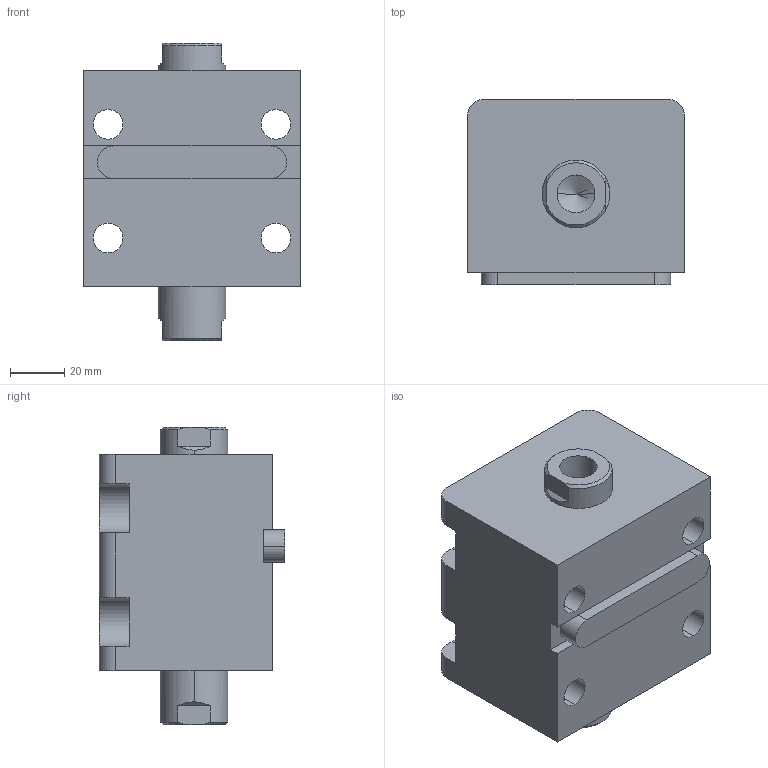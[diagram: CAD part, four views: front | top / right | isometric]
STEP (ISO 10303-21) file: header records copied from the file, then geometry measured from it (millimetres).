
FILE_DESCRIPTION (( 'STEP AP203' ), '1' );
FILE_NAME ('HTB-LW40-10N.STEP', '2019-10-09T07:53:13', ( '微软用户' ), ( '微软中国' ), 'SwSTEP 2.0', 'SolidWorks 2012', '' );
FILE_SCHEMA (( 'CONFIG_CONTROL_DESIGN' ));
Length unit declared in the file: millimetre
Products named in the file (4): HTB-LW40-10N; HTB-LA40-瑩; HTB-LW40-10N活塞杆; HTB-LW40-10掛极
Assembly tree (3 placements, depth 2):
  HTB-LW40-10N
    HTB-LW40-10掛极
    HTB-LW40-10N活塞杆
    HTB-LA40-瑩
Bounding box: 80 x 68.5 x 110 mm (x, y, z)
Volume: 376400.9 mm3; surface area: 66654 mm2
Topology: 3 solids, 3 shells, 105 faces, 261 edges, 168 vertices
Faces by surface type: plane 44, cylinder 41, cone 12, torus 8
Entity records: 3567 total; most frequent: CARTESIAN_POINT 588, DIRECTION 573, ORIENTED_EDGE 514, EDGE_CURVE 257, AXIS2_PLACEMENT_3D 221, VERTEX_POINT 168, LINE 131, VECTOR 131
